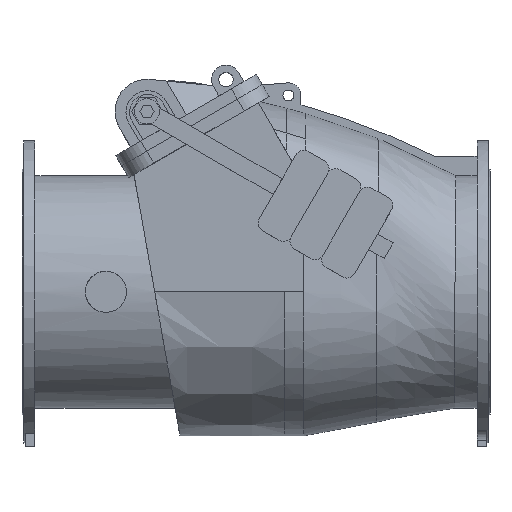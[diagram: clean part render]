
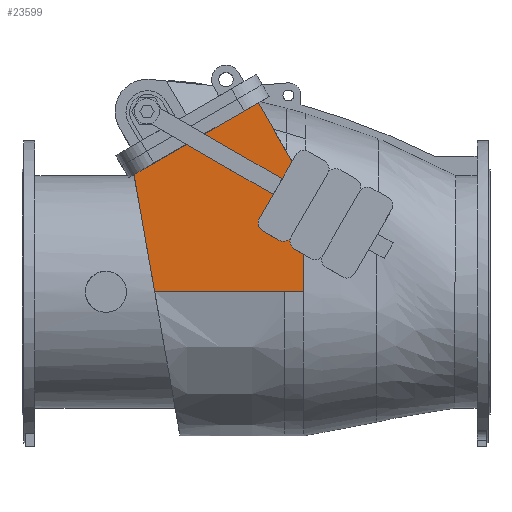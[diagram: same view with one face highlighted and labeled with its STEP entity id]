
A CAD part, top view. The second image highlights one B-rep face of the part: STEP entity #23599.
In plain terms, the highlighted planar face has unit normal (0, 0, 1).
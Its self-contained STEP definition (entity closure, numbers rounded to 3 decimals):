
#2106 = CARTESIAN_POINT ( 'NONE',  ( -516.824, 313.239, 400. ) ) ;
#2111 = CARTESIAN_POINT ( 'NONE',  ( -516.824, 310.429, 400. ) ) ;
#2112 = CARTESIAN_POINT ( 'NONE',  ( -516.824, 307.619, 400. ) ) ;
#2113 = CARTESIAN_POINT ( 'NONE',  ( -516.824, 304.809, 400. ) ) ;
#2897 = CARTESIAN_POINT ( 'NONE',  ( -516.824, 0., 400. ) ) ;
#2901 = CARTESIAN_POINT ( 'NONE',  ( -516.824, 304.809, 400. ) ) ;
#2932 = CARTESIAN_POINT ( 'NONE',  ( -643.786, 524.714, 400. ) ) ;
#2942 = CARTESIAN_POINT ( 'NONE',  ( -931.531, 0., 400. ) ) ;
#2959 = CARTESIAN_POINT ( 'NONE',  ( -988.917, 325.453, 400. ) ) ;
#2963 = CARTESIAN_POINT ( 'NONE',  ( -570., 0., 400. ) ) ;
#2967 = CARTESIAN_POINT ( 'NONE',  ( -513.786, 299.548, 400. ) ) ;
#2970 = CARTESIAN_POINT ( 'NONE',  ( -522.787, 315.138, 400. ) ) ;
#2983 = CARTESIAN_POINT ( 'NONE',  ( -516.824, 313.239, 400. ) ) ;
#3003 = CARTESIAN_POINT ( 'NONE',  ( -516.824, 297.794, 400. ) ) ;
#3058 = CARTESIAN_POINT ( 'NONE',  ( -513.786, 299.548, 400. ) ) ;
#3062 = DIRECTION ( 'NONE',  ( -0.5, 0.866, 0. ) ) ;
#3242 = CARTESIAN_POINT ( 'NONE',  ( -976.962, 257.651, 400. ) ) ;
#3243 = DIRECTION ( 'NONE',  ( 0.174, -0.985, 0. ) ) ;
#3477 = EDGE_CURVE ( 'NONE', #16092, #16079, #8068, .T. ) ;
#3482 = EDGE_CURVE ( 'NONE', #16072, #16050, #8070, .T. ) ;
#3499 = EDGE_CURVE ( 'NONE', #16079, #16038, #13261, .T. ) ;
#3528 = EDGE_CURVE ( 'NONE', #16092, #16001, #8114, .T. ) ;
#3613 = EDGE_CURVE ( 'NONE', #16038, #16068, #13385, .T. ) ;
#8068 = B_SPLINE_CURVE_WITH_KNOTS ( 'NONE', 3,
 ( #23087, #23084, #23078, #23088 ),
 .UNSPECIFIED., .F., .F.,
 ( 4, 4 ),
 ( 0., 0.117 ),
 .UNSPECIFIED. ) ;
#8070 = B_SPLINE_CURVE_WITH_KNOTS ( 'NONE', 3,
 ( #23102, #23100, #23098, #23103, #23104, #23105, #23106, #23107, #23108, #23109, #23110, #23111, #23112, #23113 ),
 .UNSPECIFIED., .F., .F.,
 ( 4, 2, 2, 2, 2, 2, 4 ),
 ( 0., 0.108, 0.215, 0.323, 0.431, 0.646, 0.862 ),
 .UNSPECIFIED. ) ;
#8089 = B_SPLINE_CURVE_WITH_KNOTS ( 'NONE', 3,
 ( #9799, #9798, #9804, #9805 ),
 .UNSPECIFIED., .F., .F.,
 ( 4, 4 ),
 ( 0.015, 0.313 ),
 .UNSPECIFIED. ) ;
#8114 = B_SPLINE_CURVE_WITH_KNOTS ( 'NONE', 3,
 ( #2106, #2111, #2112, #2113 ),
 .UNSPECIFIED., .F., .F.,
 ( 4, 4 ),
 ( 0., 0.008 ),
 .UNSPECIFIED. ) ;
#9798 = CARTESIAN_POINT ( 'NONE',  ( -516.824, 198.529, 400. ) ) ;
#9799 = CARTESIAN_POINT ( 'NONE',  ( -516.824, 297.794, 400. ) ) ;
#9804 = CARTESIAN_POINT ( 'NONE',  ( -516.824, 99.265, 400. ) ) ;
#9805 = CARTESIAN_POINT ( 'NONE',  ( -516.824, 0., 400. ) ) ;
#9806 = CARTESIAN_POINT ( 'NONE',  ( -513.786, 299.548, 400. ) ) ;
#9807 = DIRECTION ( 'NONE',  ( -0.866, -0.5, 0. ) ) ;
#9870 = CARTESIAN_POINT ( 'NONE',  ( -570., 0., 400. ) ) ;
#9871 = DIRECTION ( 'NONE',  ( 1., 0., 0. ) ) ;
#10537 = CARTESIAN_POINT ( 'NONE',  ( -570., 329.41, 400. ) ) ;
#10545 = PLANE ( 'NONE',  #14458 ) ;
#10549 = DIRECTION ( 'NONE',  ( 0., 0., 1. ) ) ;
#10551 = DIRECTION ( 'NONE',  ( 0., -1., 0. ) ) ;
#11074 = VECTOR ( 'NONE', #3062, 1000. ) ;
#11082 = LINE ( 'NONE', #3242, #11093 ) ;
#11087 = LINE ( 'NONE', #3058, #11074 ) ;
#11093 = VECTOR ( 'NONE', #3243, 1000. ) ;
#11210 = LINE ( 'NONE', #9806, #11212 ) ;
#11212 = VECTOR ( 'NONE', #9807, 1000. ) ;
#11219 = VECTOR ( 'NONE', #9871, 1000. ) ;
#11221 = LINE ( 'NONE', #9870, #11219 ) ;
#11589 = FACE_OUTER_BOUND ( 'NONE', #16615, .T. ) ;
#13261 = LINE ( 'NONE', #23234, #13263 ) ;
#13263 = VECTOR ( 'NONE', #23235, 1000. ) ;
#13385 = LINE ( 'NONE', #22358, #13390 ) ;
#13390 = VECTOR ( 'NONE', #22363, 1000. ) ;
#14458 = AXIS2_PLACEMENT_3D ( 'NONE', #10537, #10549, #10551 ) ;
#15391 = ORIENTED_EDGE ( 'NONE', *, *, #3613, .T. ) ;
#15598 = ORIENTED_EDGE ( 'NONE', *, *, #3499, .T. ) ;
#15599 = ORIENTED_EDGE ( 'NONE', *, *, #3477, .T. ) ;
#15600 = ORIENTED_EDGE ( 'NONE', *, *, #3528, .F. ) ;
#15601 = ORIENTED_EDGE ( 'NONE', *, *, #20693, .T. ) ;
#15602 = ORIENTED_EDGE ( 'NONE', *, *, #22844, .F. ) ;
#15604 = ORIENTED_EDGE ( 'NONE', *, *, #20702, .T. ) ;
#15605 = ORIENTED_EDGE ( 'NONE', *, *, #22843, .F. ) ;
#15606 = ORIENTED_EDGE ( 'NONE', *, *, #22849, .T. ) ;
#15607 = ORIENTED_EDGE ( 'NONE', *, *, #3482, .F. ) ;
#15995 = VERTEX_POINT ( 'NONE', #2897 ) ;
#16001 = VERTEX_POINT ( 'NONE', #2901 ) ;
#16038 = VERTEX_POINT ( 'NONE', #2932 ) ;
#16050 = VERTEX_POINT ( 'NONE', #2942 ) ;
#16068 = VERTEX_POINT ( 'NONE', #2959 ) ;
#16072 = VERTEX_POINT ( 'NONE', #2963 ) ;
#16076 = VERTEX_POINT ( 'NONE', #2967 ) ;
#16079 = VERTEX_POINT ( 'NONE', #2970 ) ;
#16092 = VERTEX_POINT ( 'NONE', #2983 ) ;
#16112 = VERTEX_POINT ( 'NONE', #3003 ) ;
#16615 = EDGE_LOOP ( 'NONE', ( #15604, #15607, #15606, #15605, #15602, #15601, #15600, #15599, #15598, #15391 ) ) ;
#20693 = EDGE_CURVE ( 'NONE', #16076, #16001, #11087, .T. ) ;
#20702 = EDGE_CURVE ( 'NONE', #16068, #16050, #11082, .T. ) ;
#22358 = CARTESIAN_POINT ( 'NONE',  ( -643.786, 524.714, 400. ) ) ;
#22363 = DIRECTION ( 'NONE',  ( -0.866, -0.5, 0. ) ) ;
#22843 = EDGE_CURVE ( 'NONE', #16112, #15995, #8089, .T. ) ;
#22844 = EDGE_CURVE ( 'NONE', #16076, #16112, #11210, .T. ) ;
#22849 = EDGE_CURVE ( 'NONE', #16072, #15995, #11221, .T. ) ;
#23078 = CARTESIAN_POINT ( 'NONE',  ( -520.799, 314.508, 400. ) ) ;
#23084 = CARTESIAN_POINT ( 'NONE',  ( -518.811, 313.873, 400. ) ) ;
#23087 = CARTESIAN_POINT ( 'NONE',  ( -516.824, 313.239, 400. ) ) ;
#23088 = CARTESIAN_POINT ( 'NONE',  ( -522.787, 315.138, 400. ) ) ;
#23098 = CARTESIAN_POINT ( 'NONE',  ( -599.787, 0., 400. ) ) ;
#23100 = CARTESIAN_POINT ( 'NONE',  ( -584.894, 0., 400. ) ) ;
#23102 = CARTESIAN_POINT ( 'NONE',  ( -570., 0., 400. ) ) ;
#23103 = CARTESIAN_POINT ( 'NONE',  ( -629.619, 0., 400. ) ) ;
#23104 = CARTESIAN_POINT ( 'NONE',  ( -644.558, 0., 400. ) ) ;
#23105 = CARTESIAN_POINT ( 'NONE',  ( -674.517, 0., 400. ) ) ;
#23106 = CARTESIAN_POINT ( 'NONE',  ( -689.531, 0., 400. ) ) ;
#23107 = CARTESIAN_POINT ( 'NONE',  ( -719.604, 0., 400. ) ) ;
#23108 = CARTESIAN_POINT ( 'NONE',  ( -734.663, 0., 400. ) ) ;
#23109 = CARTESIAN_POINT ( 'NONE',  ( -779.901, 0., 400. ) ) ;
#23110 = CARTESIAN_POINT ( 'NONE',  ( -810.144, 0., 400. ) ) ;
#23111 = CARTESIAN_POINT ( 'NONE',  ( -870.755, 0., 400. ) ) ;
#23112 = CARTESIAN_POINT ( 'NONE',  ( -901.121, 0., 400. ) ) ;
#23113 = CARTESIAN_POINT ( 'NONE',  ( -931.531, 0., 400. ) ) ;
#23234 = CARTESIAN_POINT ( 'NONE',  ( -513.786, 299.548, 400. ) ) ;
#23235 = DIRECTION ( 'NONE',  ( -0.5, 0.866, 0. ) ) ;
#23599 = ADVANCED_FACE ( 'NONE', ( #11589 ), #10545, .T. ) ;
